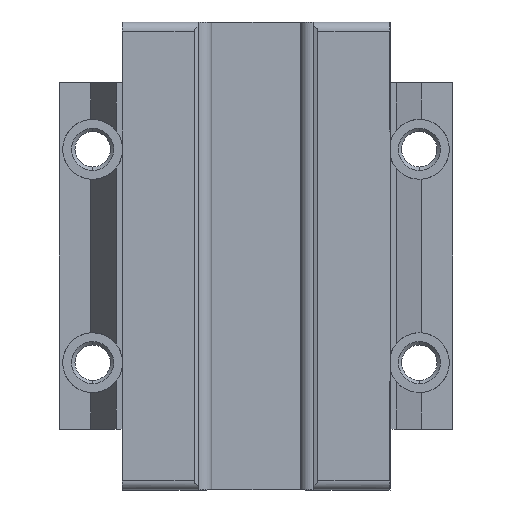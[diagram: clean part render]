
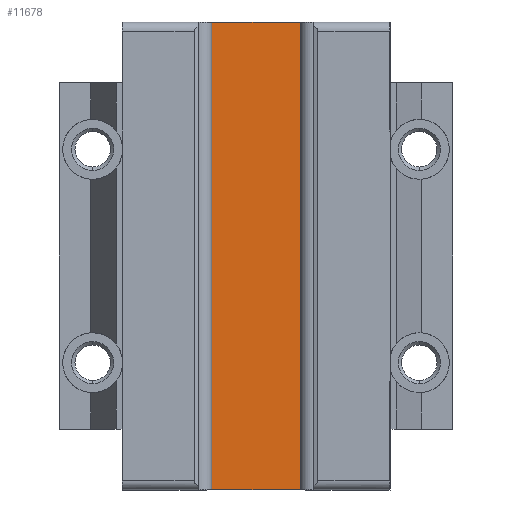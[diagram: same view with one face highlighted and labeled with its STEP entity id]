
A CAD part, front view. The second image highlights one B-rep face of the part: STEP entity #11678.
In plain terms, the highlighted planar face has unit normal (0, -1, 0).
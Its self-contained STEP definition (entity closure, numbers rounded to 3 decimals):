
#3576 = VERTEX_POINT ( 'NONE', #13408 ) ;
#3577 = EDGE_CURVE ( 'NONE', #3576, #3582, #13361, .T. ) ;
#3582 = VERTEX_POINT ( 'NONE', #13358 ) ;
#6547 = VERTEX_POINT ( 'NONE', #11952 ) ;
#6552 = EDGE_CURVE ( 'NONE', #6547, #6594, #11924, .T. ) ;
#6594 = VERTEX_POINT ( 'NONE', #11987 ) ;
#11559 = ORIENTED_EDGE ( 'NONE', *, *, #11605, .F. ) ;
#11561 = ORIENTED_EDGE ( 'NONE', *, *, #6552, .F. ) ;
#11605 = EDGE_CURVE ( 'NONE', #6594, #3582, #12598, .T. ) ;
#11645 = ORIENTED_EDGE ( 'NONE', *, *, #11646, .T. ) ;
#11646 = EDGE_CURVE ( 'NONE', #6547, #3576, #12574, .T. ) ;
#11647 = ORIENTED_EDGE ( 'NONE', *, *, #3577, .T. ) ;
#11678 = ADVANCED_FACE ( 'NONE', ( #12667 ), #12664, .F. ) ;
#11710 = EDGE_LOOP ( 'NONE', ( #11645, #11647, #11559, #11561 ) ) ;
#11921 = DIRECTION ( 'NONE',  ( -1., 0., 0. ) ) ;
#11922 = VECTOR ( 'NONE', #11921, 1000. ) ;
#11923 = CARTESIAN_POINT ( 'NONE',  ( -20.1, -7.695, -35.05 ) ) ;
#11924 = LINE ( 'NONE', #11923, #11922 ) ;
#11952 = CARTESIAN_POINT ( 'NONE',  ( 7.259, -7.695, -35.05 ) ) ;
#11987 = CARTESIAN_POINT ( 'NONE',  ( -7.251, -7.695, -35.05 ) ) ;
#12573 = CARTESIAN_POINT ( 'NONE',  ( 7.259, -7.695, -35.1 ) ) ;
#12574 = LINE ( 'NONE', #12573, #12683 ) ;
#12595 = DIRECTION ( 'NONE',  ( 0., 0., 1. ) ) ;
#12596 = VECTOR ( 'NONE', #12595, 1000. ) ;
#12597 = CARTESIAN_POINT ( 'NONE',  ( -7.251, -7.695, -35.1 ) ) ;
#12598 = LINE ( 'NONE', #12597, #12596 ) ;
#12656 = DIRECTION ( 'NONE',  ( -1., 0., 0. ) ) ;
#12658 = DIRECTION ( 'NONE',  ( 0., 1., 0. ) ) ;
#12660 = CARTESIAN_POINT ( 'NONE',  ( 7.259, -7.695, -35.1 ) ) ;
#12661 = AXIS2_PLACEMENT_3D ( 'NONE', #12660, #12658, #12656 ) ;
#12664 = PLANE ( 'NONE',  #12661 ) ;
#12667 = FACE_OUTER_BOUND ( 'NONE', #11710, .T. ) ;
#12682 = DIRECTION ( 'NONE',  ( 0., 0., 1. ) ) ;
#12683 = VECTOR ( 'NONE', #12682, 1000. ) ;
#13358 = CARTESIAN_POINT ( 'NONE',  ( -7.251, -7.695, 35.05 ) ) ;
#13361 = LINE ( 'NONE', #13433, #13432 ) ;
#13408 = CARTESIAN_POINT ( 'NONE',  ( 7.259, -7.695, 35.05 ) ) ;
#13431 = DIRECTION ( 'NONE',  ( -1., 0., 0. ) ) ;
#13432 = VECTOR ( 'NONE', #13431, 1000. ) ;
#13433 = CARTESIAN_POINT ( 'NONE',  ( 7.259, -7.695, 35.05 ) ) ;
